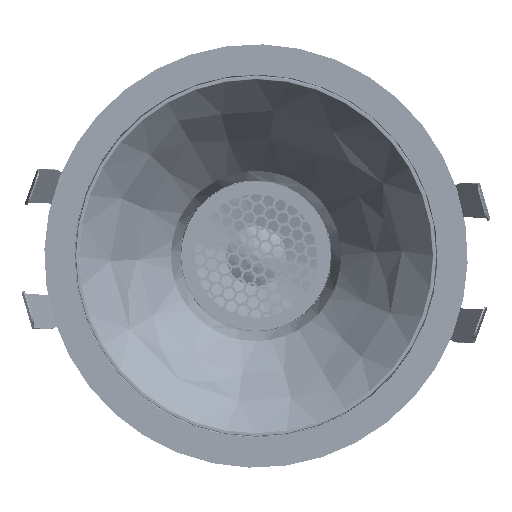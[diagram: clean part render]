
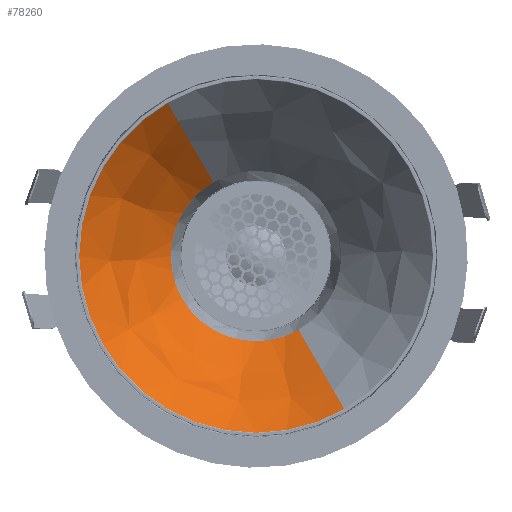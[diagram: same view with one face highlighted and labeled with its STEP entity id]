
A CAD part, front view. The second image highlights one B-rep face of the part: STEP entity #78260.
In plain terms, the highlighted free-form (B-spline) face has degree [3, 3] with [4, 7] control points.
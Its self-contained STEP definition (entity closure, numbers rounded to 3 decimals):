
#1471 = ORIENTED_EDGE ( 'NONE', *, *, #34545, .T. ) ;
#1524 = CARTESIAN_POINT ( 'NONE',  ( 0., 30.35, -16.5 ) ) ;
#4190 = CARTESIAN_POINT ( 'NONE',  ( -48.656, 38.535, 24.328 ) ) ;
#5306 = EDGE_CURVE ( 'NONE', #181429, #105664, #11859, .T. ) ;
#6062 = EDGE_LOOP ( 'NONE', ( #96322, #170169, #1471, #235303 ) ) ;
#11859 = B_SPLINE_CURVE_WITH_KNOTS ( 'NONE', 3,
 ( #32391, #94617, #131208, #135164 ),
 .UNSPECIFIED., .F., .F.,
 ( 4, 4 ),
 ( 0.003, 1. ),
 .UNSPECIFIED. ) ;
#12609 = CARTESIAN_POINT ( 'NONE',  ( 0., 30.35, 0. ) ) ;
#12910 = CARTESIAN_POINT ( 'NONE',  ( 0., 52.294, 0. ) ) ;
#13377 = CARTESIAN_POINT ( 'NONE',  ( 0., 38.535, 24.328 ) ) ;
#19132 = CARTESIAN_POINT ( 'NONE',  ( -54.548, 45.567, 27.274 ) ) ;
#24468 = CARTESIAN_POINT ( 'NONE',  ( 33., 30.35, 16.5 ) ) ;
#30220 = CIRCLE ( 'NONE', #168393, 34.222 ) ;
#32061 =( BOUNDED_SURFACE ( )  B_SPLINE_SURFACE ( 3, 3, ( 
 ( #103011, #78681, #185404, #161111, #140887, #80023, #223253 ),
 ( #162435, #59728, #165107, #142202, #19132, #101664, #163765 ),
 ( #65073, #107008, #227233, #248849, #4190, #209653, #43434 ),
 ( #1524, #166443, #24468, #104359, #85340, #63735, #124609 ) ),
 .UNSPECIFIED., .F., .T., .F. ) 
 B_SPLINE_SURFACE_WITH_KNOTS ( ( 4, 4 ),
 ( 4, 3, 4 ),
 ( 0.003, 1. ),
 ( 0., 0.5, 1. ),
 .UNSPECIFIED. ) 
 GEOMETRIC_REPRESENTATION_ITEM ( )  RATIONAL_B_SPLINE_SURFACE ( (
 ( 1., 0.333, 0.333, 1., 0.333, 0.333, 1.),
 ( 1., 0.333, 0.333, 1., 0.333, 0.333, 1.),
 ( 1., 0.333, 0.333, 1., 0.333, 0.333, 1.),
 ( 1., 0.333, 0.333, 1., 0.333, 0.333, 1.) ) ) 
 REPRESENTATION_ITEM ( '' )  SURFACE ( )  );
#32391 = CARTESIAN_POINT ( 'NONE',  ( 0., 52.294, -34.222 ) ) ;
#34545 = EDGE_CURVE ( 'NONE', #147773, #105664, #188671, .T. ) ;
#43434 = CARTESIAN_POINT ( 'NONE',  ( 0., 38.535, -24.328 ) ) ;
#59728 = CARTESIAN_POINT ( 'NONE',  ( 54.548, 45.567, -27.274 ) ) ;
#63735 = CARTESIAN_POINT ( 'NONE',  ( -33., 30.35, -16.5 ) ) ;
#65073 = CARTESIAN_POINT ( 'NONE',  ( 0., 38.535, -24.328 ) ) ;
#74266 = CARTESIAN_POINT ( 'NONE',  ( 0., 52.294, 34.222 ) ) ;
#77645 = CARTESIAN_POINT ( 'NONE',  ( 0., 30.35, 16.5 ) ) ;
#78260 = ADVANCED_FACE ( 'NONE', ( #204305 ), #32061, .T. ) ;
#78681 = CARTESIAN_POINT ( 'NONE',  ( 68.443, 52.294, -34.222 ) ) ;
#80023 = CARTESIAN_POINT ( 'NONE',  ( -68.443, 52.294, -34.222 ) ) ;
#85340 = CARTESIAN_POINT ( 'NONE',  ( -33., 30.35, 16.5 ) ) ;
#94085 = DIRECTION ( 'NONE',  ( 0., 0., -1. ) ) ;
#94617 = CARTESIAN_POINT ( 'NONE',  ( 0., 45.567, -27.274 ) ) ;
#95877 = CARTESIAN_POINT ( 'NONE',  ( 0., 45.567, 27.274 ) ) ;
#96322 = ORIENTED_EDGE ( 'NONE', *, *, #197312, .T. ) ;
#101664 = CARTESIAN_POINT ( 'NONE',  ( -54.548, 45.567, -27.274 ) ) ;
#103011 = CARTESIAN_POINT ( 'NONE',  ( 0., 52.294, -34.222 ) ) ;
#104359 = CARTESIAN_POINT ( 'NONE',  ( 0., 30.35, 16.5 ) ) ;
#105664 = VERTEX_POINT ( 'NONE', #256777 ) ;
#107008 = CARTESIAN_POINT ( 'NONE',  ( 48.656, 38.535, -24.328 ) ) ;
#124609 = CARTESIAN_POINT ( 'NONE',  ( 0., 30.35, -16.5 ) ) ;
#131208 = CARTESIAN_POINT ( 'NONE',  ( 0., 38.535, -24.328 ) ) ;
#135164 = CARTESIAN_POINT ( 'NONE',  ( 0., 30.35, -16.5 ) ) ;
#140887 = CARTESIAN_POINT ( 'NONE',  ( -68.443, 52.294, 34.222 ) ) ;
#141557 = EDGE_CURVE ( 'NONE', #180160, #147773, #201426, .T. ) ;
#142202 = CARTESIAN_POINT ( 'NONE',  ( 0., 45.567, 27.274 ) ) ;
#147773 = VERTEX_POINT ( 'NONE', #77645 ) ;
#158604 = DIRECTION ( 'NONE',  ( 0., 0., -1. ) ) ;
#161111 = CARTESIAN_POINT ( 'NONE',  ( 0., 52.294, 34.222 ) ) ;
#162435 = CARTESIAN_POINT ( 'NONE',  ( 0., 45.567, -27.274 ) ) ;
#163765 = CARTESIAN_POINT ( 'NONE',  ( 0., 45.567, -27.274 ) ) ;
#165107 = CARTESIAN_POINT ( 'NONE',  ( 54.548, 45.567, 27.274 ) ) ;
#166443 = CARTESIAN_POINT ( 'NONE',  ( 33., 30.35, -16.5 ) ) ;
#168393 = AXIS2_PLACEMENT_3D ( 'NONE', #12910, #194126, #94085 ) ;
#170169 = ORIENTED_EDGE ( 'NONE', *, *, #141557, .T. ) ;
#171692 = CARTESIAN_POINT ( 'NONE',  ( 0., 52.294, 34.222 ) ) ;
#180160 = VERTEX_POINT ( 'NONE', #171692 ) ;
#180215 = DIRECTION ( 'NONE',  ( 0., -1., 0. ) ) ;
#181429 = VERTEX_POINT ( 'NONE', #245877 ) ;
#185404 = CARTESIAN_POINT ( 'NONE',  ( 68.443, 52.294, 34.222 ) ) ;
#188671 = CIRCLE ( 'NONE', #257618, 16.5 ) ;
#194126 = DIRECTION ( 'NONE',  ( 0., 1., 0. ) ) ;
#197312 = EDGE_CURVE ( 'NONE', #181429, #180160, #30220, .T. ) ;
#201426 = B_SPLINE_CURVE_WITH_KNOTS ( 'NONE', 3,
 ( #74266, #95877, #13377, #239097 ),
 .UNSPECIFIED., .F., .F.,
 ( 4, 4 ),
 ( 0.003, 1. ),
 .UNSPECIFIED. ) ;
#204305 = FACE_OUTER_BOUND ( 'NONE', #6062, .T. ) ;
#209653 = CARTESIAN_POINT ( 'NONE',  ( -48.656, 38.535, -24.328 ) ) ;
#223253 = CARTESIAN_POINT ( 'NONE',  ( 0., 52.294, -34.222 ) ) ;
#227233 = CARTESIAN_POINT ( 'NONE',  ( 48.656, 38.535, 24.328 ) ) ;
#235303 = ORIENTED_EDGE ( 'NONE', *, *, #5306, .F. ) ;
#239097 = CARTESIAN_POINT ( 'NONE',  ( 0., 30.35, 16.5 ) ) ;
#245877 = CARTESIAN_POINT ( 'NONE',  ( 0., 52.294, -34.222 ) ) ;
#248849 = CARTESIAN_POINT ( 'NONE',  ( 0., 38.535, 24.328 ) ) ;
#256777 = CARTESIAN_POINT ( 'NONE',  ( 0., 30.35, -16.5 ) ) ;
#257618 = AXIS2_PLACEMENT_3D ( 'NONE', #12609, #180215, #158604 ) ;
